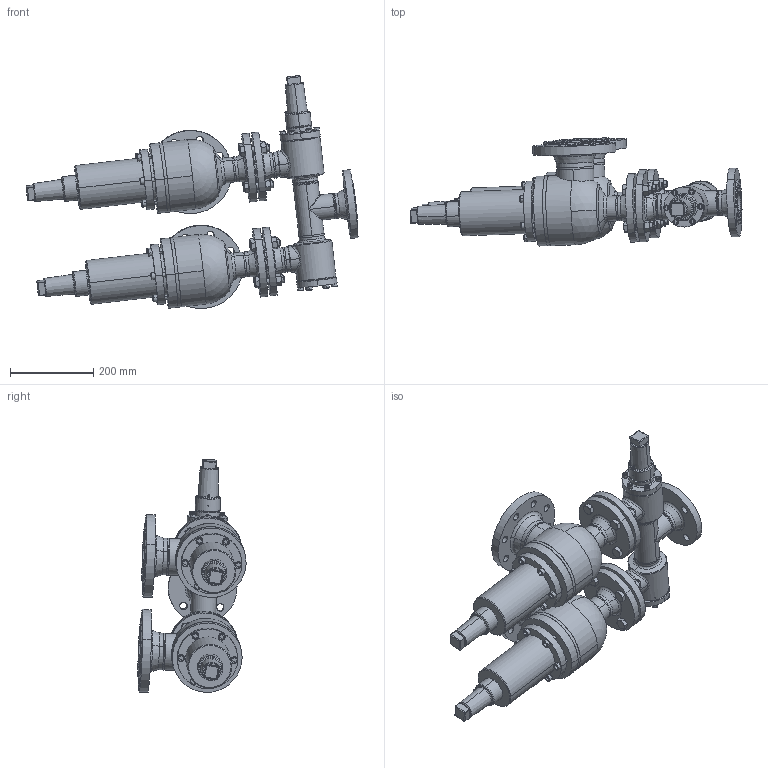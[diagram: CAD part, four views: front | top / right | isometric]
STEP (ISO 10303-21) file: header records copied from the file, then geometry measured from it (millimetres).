
FILE_DESCRIPTION (( 'STEP AP214' ), '1' );
FILE_NAME ('WVB-SVUA_167FL_DN50_DIN-FL_seitlich.STEP', '2010-09-08T06:24:35', ( 'Eckhard Grams' ), ( 'AWP Kälte Klima Armaturen GmbH' ), 'SwSTEP 2.0', 'SolidWorks 2002296', '' );
FILE_SCHEMA (( 'AUTOMOTIVE_DESIGN' ));
Length unit declared in the file: millimetre
Products named in the file (38): WVB-SVUA_167FL_DN50_DIN-FL_seitlich; SVU44400C15-DN50-(80)_DIN-FL-N_Standard; Geh,kpl 44331-15-DN50-(80)_DIN-FL-N_Standard; Geh,kpl 44331-15-DN50-(80)_R1_PS25_Standard; Geh44331-15-DN50_R1_DN50-80; Kopfstück44331-15-DN50_Standard; Rohrstutzen-A44331-15-DN50-(80)_R1_SVU; Sitzstutzen44331-15-DN50_kpl-im-geh_Standard; bead44331-15-Gehkpl1_Standard; bead44331-15-Sitzst-Geh_Standard; Flansch-DIN2635-Nut_PS40_DIN-Flansch-DN080_PS40-Nut; bead44331-15-Flana-A_Standard; bead44331-15-Flana-E_Standard; Flach-Dichtring44331-20-65_DN 50; Haube44331-15-DN50_kpl-lt-ZG_Standard; Loser-FL44200-15-DN50-SVU_PS25_Standard; Zylinderschraube-DIN912_M10x 35; geteilter Ring4433-15-DN50_PS25_Standard; WVR24020D15-DN050_DIN-FL-N-F_PS40_Standard; WVB-R23000E15_Deck+Schr-DN40-50_Standard; Deckel23000E15-DN40-50_Standard; Geh,kpl23020E15-DN050_DIN-FL-N-F_PS40_Standard; Geh,kpl23000E15-DN050_R1_PS40_Standard; Gehäuse23000E15-DN050_R1_PS40_Standard; T-Stück DIN2615_DN 50; bead23000-15-2_Standard; bead23000-15-1_Standard; Flansch-DIN2635-Nut_PS40_DIN-Flansch-DN050_PS40-Nut; bead23020-15-1_Standard; Flansch-DIN2635-Feder_PS40_DIN-Flansch-DN050_PS40-Feder; bead23020-15-3_Standard; bead23020-15-2_Standard; AVR26300E15_Deck+Schr-DN40-50_Standard; Deckel26300E15-DN40-50_Standard; Zylinderschraube-DIN912_M 8x  25; Kappe 16402-15_DN40-65 (M52x3)_Standard; Sechskantschraube-DIN933_M16x 60; Sechskantmutter-DIN934_M16
Assembly tree (72 placements, depth 5):
  WVB-SVUA_167FL_DN50_DIN-FL_seitlich
    SVU44400C15-DN50-(80)_DIN-FL-N_Standard  x2
      Zylinderschraube-DIN912_M10x 35
      Haube44331-15-DN50_kpl-lt-ZG_Standard
      Loser-FL44200-15-DN50-SVU_PS25_Standard
      Geh,kpl 44331-15-DN50-(80)_DIN-FL-N_Standard
        Geh,kpl 44331-15-DN50-(80)_R1_PS25_Standard
          Geh44331-15-DN50_R1_DN50-80
          bead44331-15-Sitzst-Geh_Standard
          bead44331-15-Gehkpl1_Standard
          Sitzstutzen44331-15-DN50_kpl-im-geh_Standard
          Kopfstück44331-15-DN50_Standard
          Rohrstutzen-A44331-15-DN50-(80)_R1_SVU
        Flansch-DIN2635-Nut_PS40_DIN-Flansch-DN080_PS40-Nut
        Flansch-DIN2635-Nut_PS40_DIN-Flansch-DN050_PS40-Nut
        bead44331-15-Flana-A_Standard
        bead44331-15-Flana-E_Standard
      Flach-Dichtring44331-20-65_DN 50
      Kappe 16402-15_DN40-65 (M52x3)_Standard
      geteilter Ring4433-15-DN50_PS25_Standard
    Sechskantmutter-DIN934_M16  x8
    Sechskantschraube-DIN933_M16x 60  x8
    WVR24020D15-DN050_DIN-FL-N-F_PS40_Standard
      AVR26300E15_Deck+Schr-DN40-50_Standard
        Zylinderschraube-DIN912_M 8x  25  x6
        Deckel26300E15-DN40-50_Standard
      WVB-R23000E15_Deck+Schr-DN40-50_Standard
        Zylinderschraube-DIN912_M 8x  25  x6
        Deckel23000E15-DN40-50_Standard
      Kappe 16402-15_DN40-65 (M52x3)_Standard
      Geh,kpl23020E15-DN050_DIN-FL-N-F_PS40_Standard
        bead23020-15-2_Standard
        bead23020-15-3_Standard
        bead23020-15-1_Standard
        Geh,kpl23000E15-DN050_R1_PS40_Standard
          bead23000-15-1_Standard
          Gehäuse23000E15-DN050_R1_PS40_Standard  x2
          bead23000-15-2_Standard
          T-Stück DIN2615_DN 50
        Flansch-DIN2635-Nut_PS40_DIN-Flansch-DN050_PS40-Nut
        Flansch-DIN2635-Feder_PS40_DIN-Flansch-DN050_PS40-Feder  x2
Bounding box: 798.53 x 260.34 x 560.16 mm (x, y, z)
Volume: 7855787.7 mm3; surface area: 1835899.5 mm2
Topology: 86 solids, 86 shells, 1931 faces, 4413 edges, 2699 vertices
Faces by surface type: cylinder 634, plane 575, cone 495, torus 129, bspline 88, sphere 10
Entity records: 51297 total; most frequent: CARTESIAN_POINT 33646, DIRECTION 3335, ORIENTED_EDGE 3046, EDGE_CURVE 1523, AXIS2_PLACEMENT_3D 1421, VERTEX_POINT 942, EDGE_LOOP 797, CIRCLE 730
